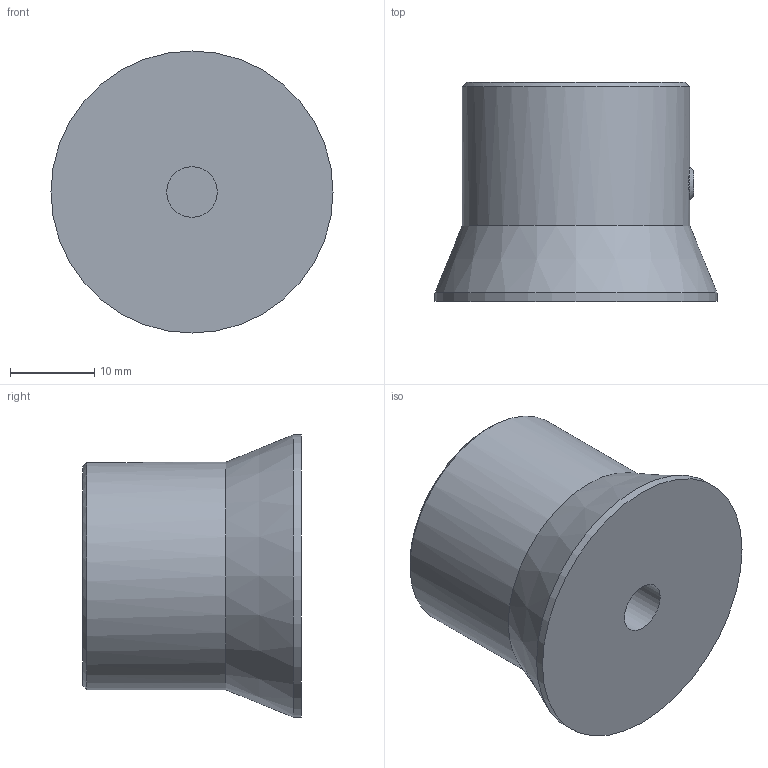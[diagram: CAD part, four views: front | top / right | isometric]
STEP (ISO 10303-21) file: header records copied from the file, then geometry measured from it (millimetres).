
FILE_DESCRIPTION( ( 'STEP AP203' ), '1' );
FILE_NAME( 'C:/Temp/Ganter_Step_05_03_2020/data/1_4/gn_726_2/gn_726_2_a/gn_726_2_a_1/Control knob GN 726.2-27-B6-A-1.stp', '2020-03-05T10:49:57', ( 'License CC BY-ND 4.0' ), ( 'CADENAS' ), ' ', 'PARTsolutions', ' ' );
FILE_SCHEMA( ( 'CONFIG_CONTROL_DESIGN' ) );
Length unit declared in the file: millimetre
Products named in the file (1): _Control knob GN 726.2-27-B6-A-1
Bounding box: 33.5 x 26 x 33.5 mm (x, y, z)
Volume: 15586 mm3; surface area: 4255.1 mm2
Topology: 1 solids, 1 shells, 86 faces, 237 edges, 156 vertices
Faces by surface type: cylinder 42, plane 40, cone 4
Full cylindrical faces by diameter (mm): 6 x1, 27 x1, 33.5 x1
Entity records: 2902 total; most frequent: CARTESIAN_POINT 780, ORIENTED_EDGE 458, DIRECTION 389, EDGE_CURVE 229, VERTEX_POINT 155, AXIS2_PLACEMENT_3D 139, LINE 111, VECTOR 111
